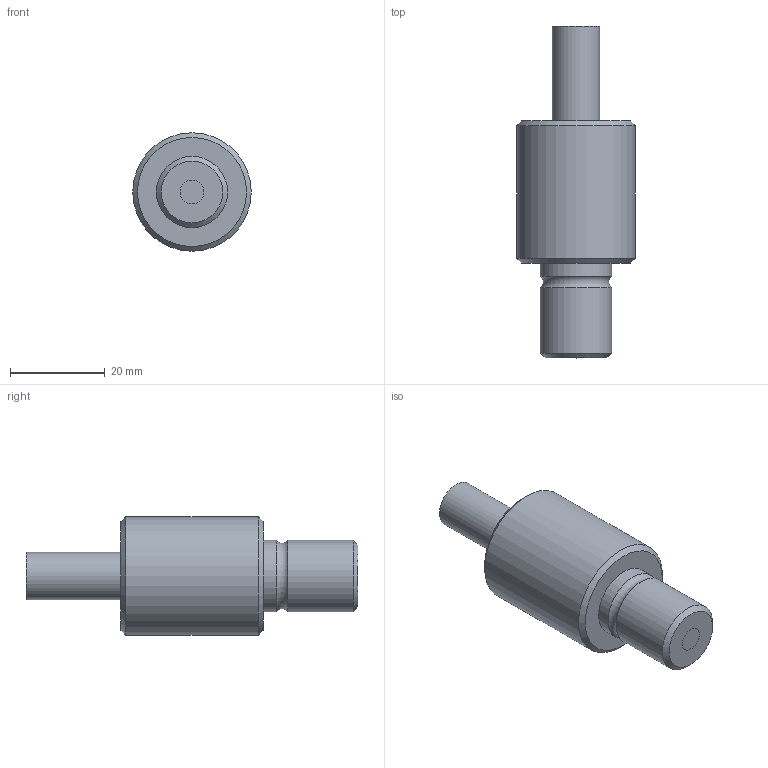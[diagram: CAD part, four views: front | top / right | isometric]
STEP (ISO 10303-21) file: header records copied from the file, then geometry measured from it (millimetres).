
FILE_DESCRIPTION(/* description */ (''),/* implementation_level */ '2;1');
FILE_NAME(/* name */ '',/* time_stamp */ '2023-05-29T11:55:26+09:00',/* author */ (''),/* organization */ (''),/* preprocessor_version */ 'ST-DEVELOPER v19.2',/* originating_system */ 'Autodesk Translation Framework v11.17.0.187',/* authorisation */ '');
FILE_SCHEMA (('AUTOMOTIVE_DESIGN { 1 0 10303 214 3 1 1 }'));
Length unit declared in the file: millimetre
Products named in the file (1): LGD1-5L 受光部
Bounding box: 25 x 70 x 25 mm (x, y, z)
Volume: 19686.5 mm3; surface area: 7113.2 mm2
Topology: 3 solids, 3 shells, 18 faces, 28 edges, 17 vertices
Faces by surface type: plane 7, cylinder 7, cone 3, torus 1
Full cylindrical faces by diameter (mm): 5 x3, 10 x1, 15 x2, 25 x1
Entity records: 449 total; most frequent: DIRECTION 84, CARTESIAN_POINT 64, ORIENTED_EDGE 56, AXIS2_PLACEMENT_3D 37, EDGE_CURVE 28, EDGE_LOOP 23, FACE_OUTER_BOUND 18, CIRCLE 18
